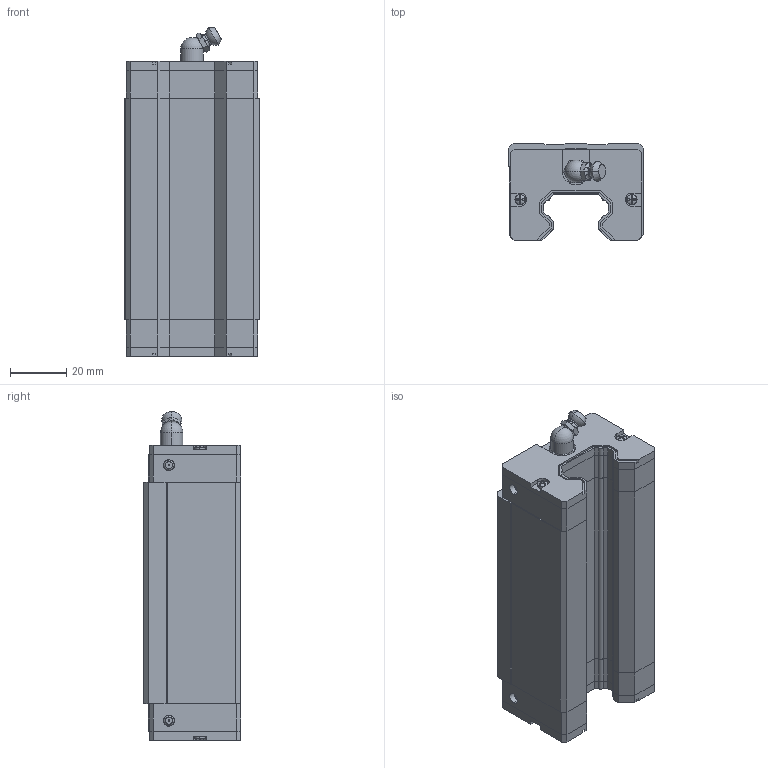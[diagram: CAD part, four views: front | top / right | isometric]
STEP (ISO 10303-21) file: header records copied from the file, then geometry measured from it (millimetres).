
FILE_DESCRIPTION (( 'STEP AP203' ), '1' );
FILE_NAME ('GHH25HA1R160Z0CI_1_GHH25HA^HGH25HA(2)_HGH25HA.STEP', '2021-10-25T03:58:51', ( '微软用户' ), ( '微软中国' ), 'SwSTEP 2.0', 'SolidWorks 2018', '' );
FILE_SCHEMA (( 'CONFIG_CONTROL_DESIGN' ));
Length unit declared in the file: millimetre
Products named in the file (1): GHH25HA1R160Z0CI_1_GHH25HA^HGH25HA(2)_HGH25HA
Bounding box: 48 x 34.4 x 116.6 mm (x, y, z)
Volume: 131935.7 mm3; surface area: 34103.8 mm2
Topology: 5 solids, 5 shells, 450 faces, 1192 edges, 770 vertices
Faces by surface type: plane 298, cylinder 86, cone 31, torus 25, sphere 10
Entity records: 14260 total; most frequent: CARTESIAN_POINT 2859, DIRECTION 2367, ORIENTED_EDGE 2362, EDGE_CURVE 1181, VECTOR 825, LINE 825, AXIS2_PLACEMENT_3D 771, VERTEX_POINT 769
